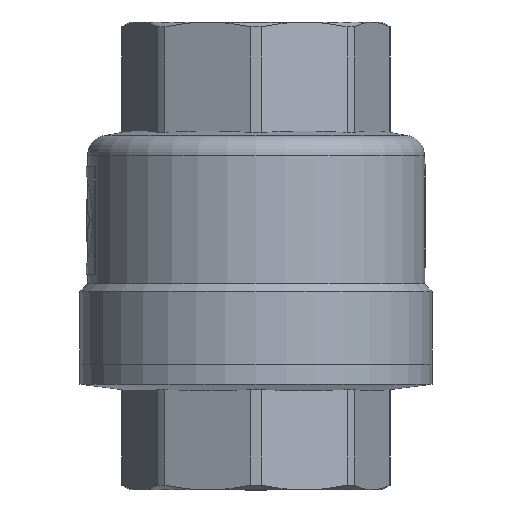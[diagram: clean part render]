
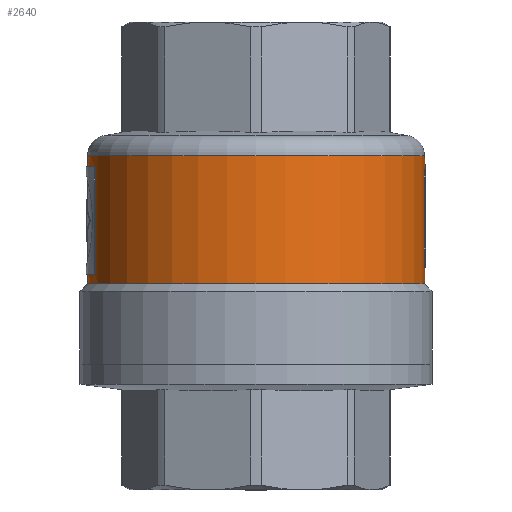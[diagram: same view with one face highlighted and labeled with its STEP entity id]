
A CAD part, front view. The second image highlights one B-rep face of the part: STEP entity #2640.
In plain terms, the highlighted cylindrical face has radius 16.75 mm (diameter 33.5 mm), a full revolution.
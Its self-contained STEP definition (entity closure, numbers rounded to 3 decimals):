
#149=B_SPLINE_CURVE_WITH_KNOTS('',3,(#8481,#8482,#8483,#8484),
 .UNSPECIFIED.,.F.,.F.,(4,4),(0.,0.026),.UNSPECIFIED.);
#150=B_SPLINE_CURVE_WITH_KNOTS('',3,(#8507,#8508,#8509,#8510),
 .UNSPECIFIED.,.F.,.F.,(4,4),(0.,0.052),.UNSPECIFIED.);
#151=B_SPLINE_CURVE_WITH_KNOTS('',3,(#8529,#8530,#8531,#8532),
 .UNSPECIFIED.,.F.,.F.,(4,4),(0.,0.052),.UNSPECIFIED.);
#152=B_SPLINE_CURVE_WITH_KNOTS('',3,(#8555,#8556,#8557,#8558),
 .UNSPECIFIED.,.F.,.F.,(4,4),(0.,0.026),
 .UNSPECIFIED.);
#153=B_SPLINE_CURVE_WITH_KNOTS('',3,(#8585,#8586,#8587,#8588),
 .UNSPECIFIED.,.F.,.F.,(4,4),(0.,0.052),
 .UNSPECIFIED.);
#154=B_SPLINE_CURVE_WITH_KNOTS('',3,(#8606,#8607,#8608,#8609),
 .UNSPECIFIED.,.F.,.F.,(4,4),(0.,0.052),
 .UNSPECIFIED.);
#180=FACE_BOUND('',#885,.T.);
#181=FACE_BOUND('',#886,.T.);
#346=LINE('',#8462,#497);
#349=LINE('',#8488,#500);
#353=LINE('',#8536,#504);
#356=LINE('',#8562,#507);
#381=LINE('',#8787,#532);
#385=LINE('',#8796,#536);
#387=LINE('',#8808,#538);
#497=VECTOR('',#3461,10.);
#500=VECTOR('',#3466,10.);
#504=VECTOR('',#3472,10.);
#507=VECTOR('',#3477,10.);
#532=VECTOR('',#3546,10.);
#536=VECTOR('',#3556,10.);
#538=VECTOR('',#3570,16.75);
#590=CYLINDRICAL_SURFACE('',#2913,16.75);
#723=FACE_OUTER_BOUND('',#884,.T.);
#884=EDGE_LOOP('',(#2375,#2376,#2377,#2378,#2379,#2380,#2381));
#885=EDGE_LOOP('',(#2382,#2383,#2384,#2385,#2386,#2387,#2388,#2389,#2390,
#2391,#2392,#2393));
#886=EDGE_LOOP('',(#2394,#2395,#2396,#2397));
#1012=CIRCLE('',#2881,16.75);
#1013=CIRCLE('',#2887,16.75);
#1024=CIRCLE('',#2909,16.75);
#1025=CIRCLE('',#2912,16.75);
#1026=CIRCLE('',#2914,16.75);
#1027=CIRCLE('',#2915,16.75);
#1028=CIRCLE('',#2916,16.75);
#1029=CIRCLE('',#2917,16.75);
#1030=CIRCLE('',#2918,16.75);
#1253=VERTEX_POINT('',#8455);
#1254=VERTEX_POINT('',#8456);
#1255=VERTEX_POINT('',#8461);
#1256=VERTEX_POINT('',#8480);
#1257=VERTEX_POINT('',#8487);
#1258=VERTEX_POINT('',#8506);
#1259=VERTEX_POINT('',#8528);
#1260=VERTEX_POINT('',#8535);
#1261=VERTEX_POINT('',#8554);
#1262=VERTEX_POINT('',#8561);
#1263=VERTEX_POINT('',#8565);
#1264=VERTEX_POINT('',#8584);
#1291=VERTEX_POINT('',#8785);
#1292=VERTEX_POINT('',#8786);
#1293=VERTEX_POINT('',#8791);
#1294=VERTEX_POINT('',#8795);
#1295=VERTEX_POINT('',#8801);
#1296=VERTEX_POINT('',#8802);
#1297=VERTEX_POINT('',#8804);
#1298=VERTEX_POINT('',#8807);
#1299=VERTEX_POINT('',#8809);
#1613=EDGE_CURVE('',#1253,#1254,#1012,.T.);
#1616=EDGE_CURVE('',#1255,#1253,#346,.T.);
#1618=EDGE_CURVE('',#1256,#1255,#149,.T.);
#1620=EDGE_CURVE('',#1257,#1256,#349,.T.);
#1622=EDGE_CURVE('',#1258,#1257,#150,.T.);
#1624=EDGE_CURVE('',#1259,#1258,#151,.T.);
#1626=EDGE_CURVE('',#1260,#1259,#353,.T.);
#1628=EDGE_CURVE('',#1261,#1260,#152,.T.);
#1630=EDGE_CURVE('',#1262,#1261,#356,.T.);
#1632=EDGE_CURVE('',#1263,#1262,#1013,.T.);
#1634=EDGE_CURVE('',#1264,#1263,#153,.T.);
#1636=EDGE_CURVE('',#1254,#1264,#154,.T.);
#1674=EDGE_CURVE('',#1291,#1292,#381,.T.);
#1677=EDGE_CURVE('',#1293,#1291,#1024,.T.);
#1679=EDGE_CURVE('',#1294,#1293,#385,.T.);
#1681=EDGE_CURVE('',#1292,#1294,#1025,.T.);
#1682=EDGE_CURVE('',#1295,#1296,#1026,.T.);
#1683=EDGE_CURVE('',#1297,#1295,#1027,.T.);
#1684=EDGE_CURVE('',#1296,#1297,#1028,.T.);
#1685=EDGE_CURVE('',#1296,#1298,#387,.T.);
#1686=EDGE_CURVE('',#1298,#1299,#1029,.T.);
#1687=EDGE_CURVE('',#1299,#1298,#1030,.T.);
#2375=ORIENTED_EDGE('',*,*,#1682,.F.);
#2376=ORIENTED_EDGE('',*,*,#1683,.F.);
#2377=ORIENTED_EDGE('',*,*,#1684,.F.);
#2378=ORIENTED_EDGE('',*,*,#1685,.T.);
#2379=ORIENTED_EDGE('',*,*,#1686,.T.);
#2380=ORIENTED_EDGE('',*,*,#1687,.T.);
#2381=ORIENTED_EDGE('',*,*,#1685,.F.);
#2382=ORIENTED_EDGE('',*,*,#1613,.T.);
#2383=ORIENTED_EDGE('',*,*,#1636,.T.);
#2384=ORIENTED_EDGE('',*,*,#1634,.T.);
#2385=ORIENTED_EDGE('',*,*,#1632,.T.);
#2386=ORIENTED_EDGE('',*,*,#1630,.T.);
#2387=ORIENTED_EDGE('',*,*,#1628,.T.);
#2388=ORIENTED_EDGE('',*,*,#1626,.T.);
#2389=ORIENTED_EDGE('',*,*,#1624,.T.);
#2390=ORIENTED_EDGE('',*,*,#1622,.T.);
#2391=ORIENTED_EDGE('',*,*,#1620,.T.);
#2392=ORIENTED_EDGE('',*,*,#1618,.T.);
#2393=ORIENTED_EDGE('',*,*,#1616,.T.);
#2394=ORIENTED_EDGE('',*,*,#1674,.T.);
#2395=ORIENTED_EDGE('',*,*,#1681,.T.);
#2396=ORIENTED_EDGE('',*,*,#1679,.T.);
#2397=ORIENTED_EDGE('',*,*,#1677,.T.);
#2640=ADVANCED_FACE('',(#723,#180,#181),#590,.T.);
#2881=AXIS2_PLACEMENT_3D('',#8457,#3455,#3456);
#2887=AXIS2_PLACEMENT_3D('',#8566,#3481,#3482);
#2909=AXIS2_PLACEMENT_3D('',#8792,#3551,#3552);
#2912=AXIS2_PLACEMENT_3D('',#8799,#3560,#3561);
#2913=AXIS2_PLACEMENT_3D('',#8800,#3562,#3563);
#2914=AXIS2_PLACEMENT_3D('',#8803,#3564,#3565);
#2915=AXIS2_PLACEMENT_3D('',#8805,#3566,#3567);
#2916=AXIS2_PLACEMENT_3D('',#8806,#3568,#3569);
#2917=AXIS2_PLACEMENT_3D('',#8810,#3571,#3572);
#2918=AXIS2_PLACEMENT_3D('',#8811,#3573,#3574);
#3455=DIRECTION('center_axis',(0.,0.,
-1.));
#3456=DIRECTION('ref_axis',(0.,-1.,0.));
#3461=DIRECTION('',(0.,0.,1.));
#3466=DIRECTION('',(0.,0.,1.));
#3472=DIRECTION('',(0.,0.,-1.));
#3477=DIRECTION('',(0.,0.,-1.));
#3481=DIRECTION('center_axis',(0.,0.,
-1.));
#3482=DIRECTION('ref_axis',(0.,-1.,0.));
#3546=DIRECTION('',(0.,0.,1.));
#3551=DIRECTION('center_axis',(0.,0.,
-1.));
#3552=DIRECTION('ref_axis',(0.,-1.,0.));
#3556=DIRECTION('',(0.,0.,-1.));
#3560=DIRECTION('center_axis',(0.,0.,
1.));
#3561=DIRECTION('ref_axis',(0.,-1.,0.));
#3562=DIRECTION('center_axis',(0.,0.,1.));
#3563=DIRECTION('ref_axis',(0.,-1.,0.));
#3564=DIRECTION('center_axis',(0.,0.,1.));
#3565=DIRECTION('ref_axis',(1.,0.,0.));
#3566=DIRECTION('center_axis',(0.,0.,1.));
#3567=DIRECTION('ref_axis',(1.,0.,0.));
#3568=DIRECTION('center_axis',(0.,0.,1.));
#3569=DIRECTION('ref_axis',(1.,0.,0.));
#3570=DIRECTION('',(0.,0.,-1.));
#3571=DIRECTION('center_axis',(0.,0.,1.));
#3572=DIRECTION('ref_axis',(1.,0.,0.));
#3573=DIRECTION('center_axis',(0.,0.,1.));
#3574=DIRECTION('ref_axis',(1.,0.,0.));
#8455=CARTESIAN_POINT('',(16.745,-0.424,6.946));
#8456=CARTESIAN_POINT('',(16.728,-0.863,6.946));
#8457=CARTESIAN_POINT('Origin',(0.,0.,6.946));
#8461=CARTESIAN_POINT('',(16.745,-0.424,2.374));
#8462=CARTESIAN_POINT('',(16.745,-0.424,3.617));
#8480=CARTESIAN_POINT('',(16.728,-0.863,1.715));
#8481=CARTESIAN_POINT('Ctrl Pts',(16.728,-0.863,1.715));
#8482=CARTESIAN_POINT('Ctrl Pts',(16.735,-0.716,1.934));
#8483=CARTESIAN_POINT('Ctrl Pts',(16.741,-0.57,2.154));
#8484=CARTESIAN_POINT('Ctrl Pts',(16.745,-0.424,2.374));
#8487=CARTESIAN_POINT('',(16.728,-0.863,-1.141));
#8488=CARTESIAN_POINT('',(16.728,-0.863,3.617));
#8506=CARTESIAN_POINT('',(16.75,0.015,-0.097));
#8507=CARTESIAN_POINT('Ctrl Pts',(16.75,0.015,-0.097));
#8508=CARTESIAN_POINT('Ctrl Pts',(16.75,-0.277,-0.445));
#8509=CARTESIAN_POINT('Ctrl Pts',(16.743,-0.57,-0.793));
#8510=CARTESIAN_POINT('Ctrl Pts',(16.728,-0.863,-1.141));
#8528=CARTESIAN_POINT('',(16.726,0.893,-1.141));
#8529=CARTESIAN_POINT('Ctrl Pts',(16.726,0.893,-1.141));
#8530=CARTESIAN_POINT('Ctrl Pts',(16.742,0.601,-0.793));
#8531=CARTESIAN_POINT('Ctrl Pts',(16.75,0.308,-0.445));
#8532=CARTESIAN_POINT('Ctrl Pts',(16.75,0.015,-0.097));
#8535=CARTESIAN_POINT('',(16.726,0.893,1.715));
#8536=CARTESIAN_POINT('',(16.726,0.893,3.617));
#8554=CARTESIAN_POINT('',(16.744,0.454,2.374));
#8555=CARTESIAN_POINT('Ctrl Pts',(16.744,0.454,2.374));
#8556=CARTESIAN_POINT('Ctrl Pts',(16.74,0.601,2.154));
#8557=CARTESIAN_POINT('Ctrl Pts',(16.734,0.747,1.934));
#8558=CARTESIAN_POINT('Ctrl Pts',(16.726,0.893,1.715));
#8561=CARTESIAN_POINT('',(16.744,0.454,6.946));
#8562=CARTESIAN_POINT('',(16.744,0.454,3.617));
#8565=CARTESIAN_POINT('',(16.726,0.893,6.946));
#8566=CARTESIAN_POINT('Origin',(0.,0.,6.946));
#8584=CARTESIAN_POINT('',(16.75,0.015,9.052));
#8585=CARTESIAN_POINT('Ctrl Pts',(16.75,0.015,9.052));
#8586=CARTESIAN_POINT('Ctrl Pts',(16.75,0.308,8.35));
#8587=CARTESIAN_POINT('Ctrl Pts',(16.742,0.601,7.648));
#8588=CARTESIAN_POINT('Ctrl Pts',(16.726,0.893,6.946));
#8606=CARTESIAN_POINT('Ctrl Pts',(16.728,-0.863,6.946));
#8607=CARTESIAN_POINT('Ctrl Pts',(16.743,-0.57,7.648));
#8608=CARTESIAN_POINT('Ctrl Pts',(16.75,-0.277,8.35));
#8609=CARTESIAN_POINT('Ctrl Pts',(16.75,0.015,9.052));
#8785=CARTESIAN_POINT('',(-15.824,5.492,-1.817));
#8786=CARTESIAN_POINT('',(-15.824,5.492,8.847));
#8787=CARTESIAN_POINT('',(-15.824,5.492,3.617));
#8791=CARTESIAN_POINT('',(-15.989,-4.992,-1.817));
#8792=CARTESIAN_POINT('Origin',(0.,0.,-1.817));
#8795=CARTESIAN_POINT('',(-15.989,-4.992,8.847));
#8796=CARTESIAN_POINT('',(-15.989,-4.992,3.617));
#8799=CARTESIAN_POINT('Origin',(0.,0.,8.847));
#8800=CARTESIAN_POINT('Origin',(0.,0.,3.617));
#8801=CARTESIAN_POINT('',(0.,-16.75,9.984));
#8802=CARTESIAN_POINT('',(0.,16.75,9.984));
#8803=CARTESIAN_POINT('Origin',(0.,0.,9.984));
#8804=CARTESIAN_POINT('',(-16.75,0.,9.984));
#8805=CARTESIAN_POINT('Origin',(0.,0.,9.984));
#8806=CARTESIAN_POINT('Origin',(0.,0.,9.984));
#8807=CARTESIAN_POINT('',(0.,16.75,-2.75));
#8808=CARTESIAN_POINT('',(0.,16.75,3.617));
#8809=CARTESIAN_POINT('',(0.,-16.75,-2.75));
#8810=CARTESIAN_POINT('Origin',(0.,0.,-2.75));
#8811=CARTESIAN_POINT('Origin',(0.,0.,-2.75));
